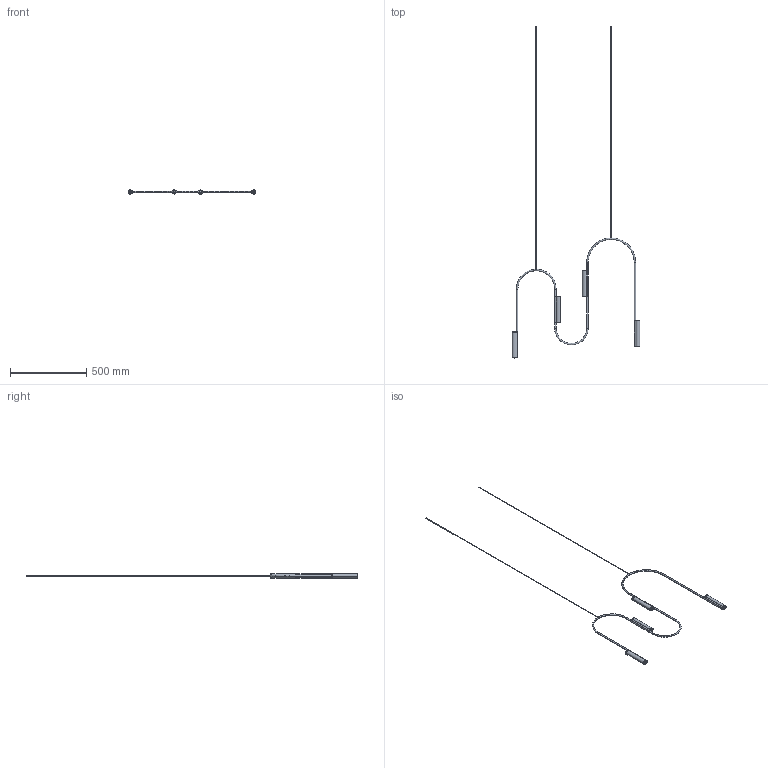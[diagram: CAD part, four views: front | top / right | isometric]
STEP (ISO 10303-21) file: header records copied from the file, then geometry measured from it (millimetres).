
FILE_DESCRIPTION (( 'STEP AP214' ), '1' );
FILE_NAME ('Pop - Pendant C.STEP', '2024-04-08T06:07:56', ( '' ), ( '' ), 'SwSTEP 2.0', 'SolidWorks 2017', '' );
FILE_SCHEMA (( 'AUTOMOTIVE_DESIGN' ));
Length unit declared in the file: millimetre
Products named in the file (1): Pop - Pendant C
Bounding box: 835.98 x 2170.46 x 29.1 mm (x, y, z)
Volume: 526581.6 mm3; surface area: 345158.1 mm2
Topology: 23 solids, 23 shells, 406 faces, 858 edges, 520 vertices
Faces by surface type: cylinder 146, torus 108, plane 68, cone 48, bspline 36
Entity records: 24248 total; most frequent: CARTESIAN_POINT 10689, DIRECTION 2024, ORIENTED_EDGE 1716, AXIS2_PLACEMENT_3D 917, EDGE_CURVE 858, CIRCLE 546, VERTEX_POINT 520, EDGE_LOOP 448
